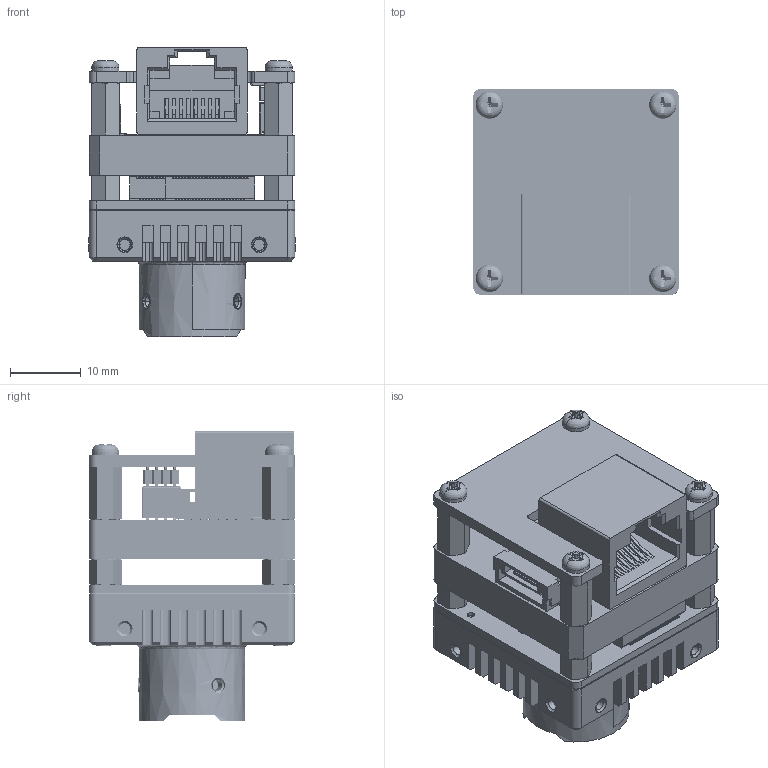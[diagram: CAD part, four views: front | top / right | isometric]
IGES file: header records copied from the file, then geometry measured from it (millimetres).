
Start section:  PTC IGES file: 1.igs
Global section: file name: 1.igs; native system: Creo Parametric by PTC Inc.; preprocessor: 2017260; author: fangguihua; organization: Unknown; date: 20210126.142221; units: millimetre
Bounding box: 29.14 x 29.14 x 40.9 mm (x, y, z)
Surface area: 16669.7 mm2 (no closed solid volume)
Topology: 0 solids, 0 shells, 5992 faces, 37152 edges, 38228 vertices
Faces by surface type: bspline 3935, revolution 2057
